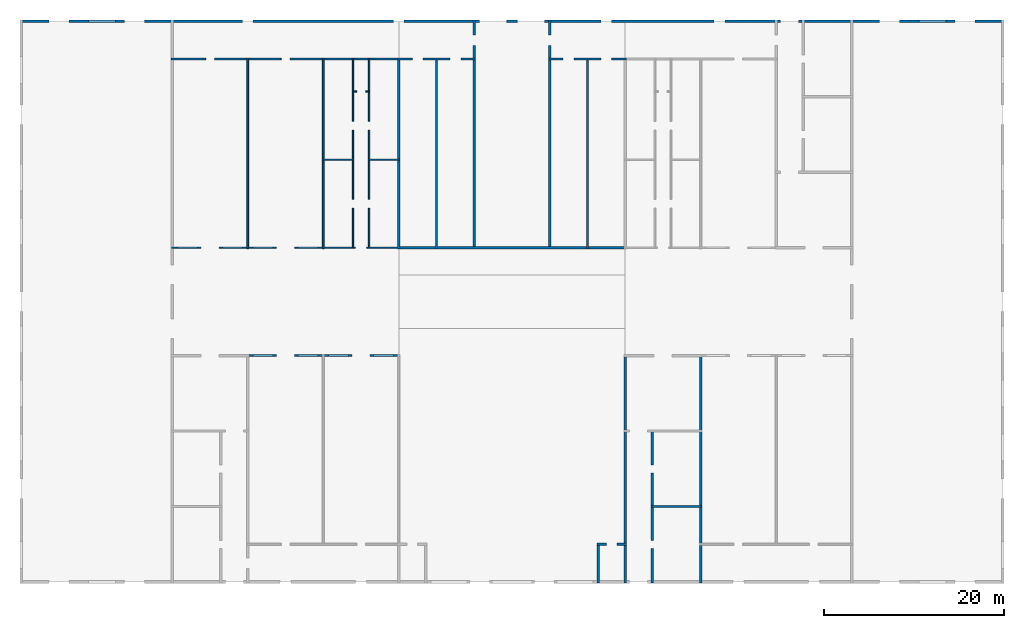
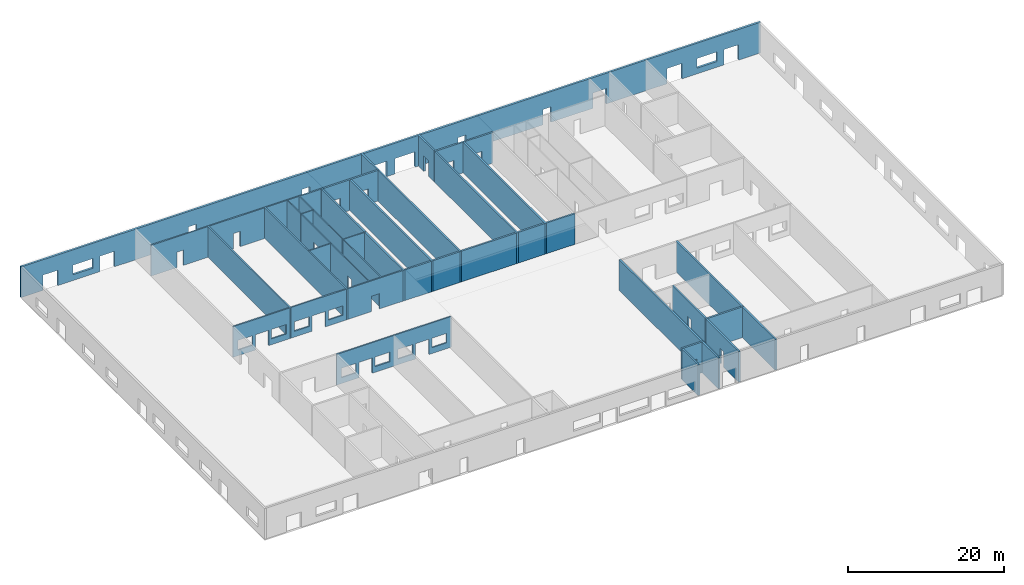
# One storey, part 2 of 3: 25 walls, 53 openings.
"""IFC4 building model written with IfcOpenShell, lengths in millimetres."""

from ifc_helpers import new_model, si_unit, frame, origin_with_axes, place, context, subcontext, project, spatial, indexed_curve, outline, extrude, type_object, element, save


model = new_model("IFC4")

# Units and contexts
model_context = context("Model", 3, precision=1e-05, world=origin_with_axes())
body_context = subcontext(model_context, "Body", "Model", "MODEL_VIEW")
ifc_project = project(units=[si_unit("AREAUNIT", "SQUARE_METRE"), si_unit("VOLUMEUNIT", "CUBIC_METRE"), si_unit("LENGTHUNIT", "METRE", prefix="MILLI")], contexts=[model_context])

# Site, building, storey
site = spatial("IfcSite", under=ifc_project, Name="PIN 00000000 (sample)")
building = spatial("IfcBuilding", under=site, Name="Sample Shopping Mall")
storey = spatial("IfcBuildingStorey", under=building, Name="Ground Floor", Elevation=0.0)

# Wall, openings
wall_type_1 = type_object("IfcWallType", Name="WT-300", PredefinedType="SOLIDWALL")
wall_1_placement = place(None, frame((5250.0, 77849.99999999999, 0.0), z_axis=(0.0, 0.0, 1.0), x_axis=(1.0, 0.0, 0.0)))
wall_1 = element("IfcWall", 1, at=wall_1_placement, inside=storey, type_object=wall_type_1, Name="W29", context=body_context, shape_type="SweptSolid", body=[
    extrude(outline(indexed_curve([(0.0, 0.0), (0.0, 300.0), (109499.99999999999, 300.0), (109499.99999999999, 0.0), (0.0, 0.0)], self_intersect=False)), origin_with_axes(), (0.0, 0.0, 1.0), 4800.0),
])
opening_1_placement = place(wall_1_placement, frame((3250.0, -99.9999999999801, 0.0), z_axis=(0.0, 0.0, 1.0), x_axis=(1.0, 0.0, 0.0)))
element("IfcOpeningElement", 2, at=opening_1_placement, cuts=wall_1, Name="D12-opening", context=body_context, shape_type="SweptSolid", body=[
    extrude(outline(indexed_curve([(0.0, 0.0), (0.0, 500.0), (1100.0, 500.0), (1100.0, 0.0), (0.0, 0.0)], self_intersect=False)), origin_with_axes(), (0.0, 0.0, 1.0), 2400.0),
])
opening_2_placement = place(wall_1_placement, frame((4350.000000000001, -99.9999999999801, 0.0), z_axis=(0.0, 0.0, 1.0), x_axis=(1.0, 0.0, 0.0)))
element("IfcOpeningElement", 3, at=opening_2_placement, cuts=wall_1, Name="-opening", context=body_context, shape_type="SweptSolid", body=[
    extrude(outline(indexed_curve([(0.0, 0.0), (0.0, 500.0), (1100.0, 500.0), (1100.0, 0.0), (0.0, 0.0)], self_intersect=False)), origin_with_axes(), (0.0, 0.0, 1.0), 2400.0),
])
opening_3_placement = place(wall_1_placement, frame((11649.999999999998, -99.9999999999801, 0.0), z_axis=(0.0, 0.0, 1.0), x_axis=(1.0, 0.0, 0.0)))
element("IfcOpeningElement", 4, at=opening_3_placement, cuts=wall_1, Name="D13-opening", context=body_context, shape_type="SweptSolid", body=[
    extrude(outline(indexed_curve([(0.0, 0.0), (0.0, 500.0), (1100.0, 500.0), (1100.0, 0.0), (0.0, 0.0)], self_intersect=False)), origin_with_axes(), (0.0, 0.0, 1.0), 2400.0),
])
opening_4_placement = place(wall_1_placement, frame((12750.0, -99.9999999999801, 0.0), z_axis=(0.0, 0.0, 1.0), x_axis=(1.0, 0.0, 0.0)))
element("IfcOpeningElement", 5, at=opening_4_placement, cuts=wall_1, Name="-opening", context=body_context, shape_type="SweptSolid", body=[
    extrude(outline(indexed_curve([(0.0, 0.0), (0.0, 500.0), (1100.0, 500.0), (1100.0, 0.0), (0.0, 0.0)], self_intersect=False)), origin_with_axes(), (0.0, 0.0, 1.0), 2400.0),
])
opening_5_placement = place(wall_1_placement, frame((95650.0, -99.9999999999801, 0.0), z_axis=(0.0, 0.0, 1.0), x_axis=(1.0, 0.0, 0.0)))
element("IfcOpeningElement", 6, at=opening_5_placement, cuts=wall_1, Name="D21-opening", context=body_context, shape_type="SweptSolid", body=[
    extrude(outline(indexed_curve([(0.0, 0.0), (0.0, 500.0), (1100.0, 500.0), (1100.0, 0.0), (0.0, 0.0)], self_intersect=False)), origin_with_axes(), (0.0, 0.0, 1.0), 2400.0),
])
opening_6_placement = place(wall_1_placement, frame((96750.0, -99.9999999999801, 0.0), z_axis=(0.0, 0.0, 1.0), x_axis=(1.0, 0.0, 0.0)))
element("IfcOpeningElement", 7, at=opening_6_placement, cuts=wall_1, Name="-opening", context=body_context, shape_type="SweptSolid", body=[
    extrude(outline(indexed_curve([(0.0, 0.0), (0.0, 500.0), (1100.0, 500.0), (1100.0, 0.0), (0.0, 0.0)], self_intersect=False)), origin_with_axes(), (0.0, 0.0, 1.0), 2400.0),
])
opening_7_placement = place(wall_1_placement, frame((104050.00000000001, -99.9999999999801, 0.0), z_axis=(0.0, 0.0, 1.0), x_axis=(1.0, 0.0, 0.0)))
element("IfcOpeningElement", 8, at=opening_7_placement, cuts=wall_1, Name="D22-opening", context=body_context, shape_type="SweptSolid", body=[
    extrude(outline(indexed_curve([(0.0, 0.0), (0.0, 500.0), (1100.0, 500.0), (1100.0, 0.0), (0.0, 0.0)], self_intersect=False)), origin_with_axes(), (0.0, 0.0, 1.0), 2400.0),
])
opening_8_placement = place(wall_1_placement, frame((105150.0, -99.9999999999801, 0.0), z_axis=(0.0, 0.0, 1.0), x_axis=(1.0, 0.0, 0.0)))
element("IfcOpeningElement", 9, at=opening_8_placement, cuts=wall_1, Name="-opening", context=body_context, shape_type="SweptSolid", body=[
    extrude(outline(indexed_curve([(0.0, 0.0), (0.0, 500.0), (1100.0, 500.0), (1100.0, 0.0), (0.0, 0.0)], self_intersect=False)), origin_with_axes(), (0.0, 0.0, 1.0), 2400.0),
])
opening_9_placement = place(wall_1_placement, frame((24750.0, -99.9999999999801, 0.0), z_axis=(0.0, 0.0, 1.0), x_axis=(1.0, 0.0, 0.0)))
element("IfcOpeningElement", 10, at=opening_9_placement, cuts=wall_1, Name="D27-opening", context=body_context, shape_type="SweptSolid", body=[
    extrude(outline(indexed_curve([(0.0, 0.0), (0.0, 500.0), (1200.0, 500.0), (1200.0, 0.0), (0.0, 0.0)], self_intersect=False)), origin_with_axes(), (0.0, 0.0, 1.0), 2400.0),
])
opening_10_placement = place(wall_1_placement, frame((41549.99999999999, -99.9999999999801, 0.0), z_axis=(0.0, 0.0, 1.0), x_axis=(1.0, 0.0, 0.0)))
element("IfcOpeningElement", 11, at=opening_10_placement, cuts=wall_1, Name="D28-opening", context=body_context, shape_type="SweptSolid", body=[
    extrude(outline(indexed_curve([(0.0, 0.0), (0.0, 500.0), (1200.0, 500.0), (1200.0, 0.0), (0.0, 0.0)], self_intersect=False)), origin_with_axes(), (0.0, 0.0, 1.0), 2400.0),
])
opening_11_placement = place(wall_1_placement, frame((64650.00000000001, -99.9999999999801, 0.0), z_axis=(0.0, 0.0, 1.0), x_axis=(1.0, 0.0, 0.0)))
element("IfcOpeningElement", 12, at=opening_11_placement, cuts=wall_1, Name="D29-opening", context=body_context, shape_type="SweptSolid", body=[
    extrude(outline(indexed_curve([(0.0, 0.0), (0.0, 500.0), (1200.0, 500.0), (1200.0, 0.0), (0.0, 0.0)], self_intersect=False)), origin_with_axes(), (0.0, 0.0, 1.0), 2400.0),
])
opening_12_placement = place(wall_1_placement, frame((77250.0, -99.9999999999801, 0.0), z_axis=(0.0, 0.0, 1.0), x_axis=(1.0, 0.0, 0.0)))
element("IfcOpeningElement", 13, at=opening_12_placement, cuts=wall_1, Name="D30-opening", context=body_context, shape_type="SweptSolid", body=[
    extrude(outline(indexed_curve([(0.0, 0.0), (0.0, 500.0), (1200.0, 500.0), (1200.0, 0.0), (0.0, 0.0)], self_intersect=False)), origin_with_axes(), (0.0, 0.0, 1.0), 2400.0),
])
opening_13_placement = place(wall_1_placement, frame((51150.0, -99.9999999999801, 0.0), z_axis=(0.0, 0.0, 1.0), x_axis=(1.0, 0.0, 0.0)))
element("IfcOpeningElement", 14, at=opening_13_placement, cuts=wall_1, Name="D62-opening", context=body_context, shape_type="SweptSolid", body=[
    extrude(outline(indexed_curve([(0.0, 0.0), (0.0, 500.0), (1500.0, 500.0), (1500.0, 0.0), (0.0, 0.0)], self_intersect=False)), origin_with_axes(), (0.0, 0.0, 1.0), 2400.0),
])
opening_14_placement = place(wall_1_placement, frame((52650.0, -99.9999999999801, 0.0), z_axis=(0.0, 0.0, 1.0), x_axis=(1.0, 0.0, 0.0)))
element("IfcOpeningElement", 15, at=opening_14_placement, cuts=wall_1, Name="-opening", context=body_context, shape_type="SweptSolid", body=[
    extrude(outline(indexed_curve([(0.0, 0.0), (0.0, 500.0), (1500.0, 500.0), (1500.0, 0.0), (0.0, 0.0)], self_intersect=False)), origin_with_axes(), (0.0, 0.0, 1.0), 2400.0),
])
opening_15_placement = place(wall_1_placement, frame((55350.0, -99.9999999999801, 0.0), z_axis=(0.0, 0.0, 1.0), x_axis=(1.0, 0.0, 0.0)))
element("IfcOpeningElement", 16, at=opening_15_placement, cuts=wall_1, Name="D63-opening", context=body_context, shape_type="SweptSolid", body=[
    extrude(outline(indexed_curve([(0.0, 0.0), (0.0, 500.0), (1500.0, 500.0), (1500.0, 0.0), (0.0, 0.0)], self_intersect=False)), origin_with_axes(), (0.0, 0.0, 1.0), 2400.0),
])
opening_16_placement = place(wall_1_placement, frame((56850.0, -99.9999999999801, 0.0), z_axis=(0.0, 0.0, 1.0), x_axis=(1.0, 0.0, 0.0)))
element("IfcOpeningElement", 17, at=opening_16_placement, cuts=wall_1, Name="-opening", context=body_context, shape_type="SweptSolid", body=[
    extrude(outline(indexed_curve([(0.0, 0.0), (0.0, 500.0), (1500.0, 500.0), (1500.0, 0.0), (0.0, 0.0)], self_intersect=False)), origin_with_axes(), (0.0, 0.0, 1.0), 2400.0),
])
opening_17_placement = place(wall_1_placement, frame((84650.0, -99.9999999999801, 0.0), z_axis=(0.0, 0.0, 1.0), x_axis=(1.0, 0.0, 0.0)))
element("IfcOpeningElement", 18, at=opening_17_placement, cuts=wall_1, Name="D78-opening", context=body_context, shape_type="SweptSolid", body=[
    extrude(outline(indexed_curve([(0.0, 0.0), (0.0, 500.0), (1000.0, 500.0), (1000.0, 0.0), (0.0, 0.0)], self_intersect=False)), origin_with_axes(), (0.0, 0.0, 1.0), 2400.0),
])
opening_18_placement = place(wall_1_placement, frame((85650.0, -99.9999999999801, 0.0), z_axis=(0.0, 0.0, 1.0), x_axis=(1.0, 0.0, 0.0)))
element("IfcOpeningElement", 19, at=opening_18_placement, cuts=wall_1, Name="-opening", context=body_context, shape_type="SweptSolid", body=[
    extrude(outline(indexed_curve([(0.0, 0.0), (0.0, 500.0), (1000.0, 500.0), (1000.0, 0.0), (0.0, 0.0)], self_intersect=False)), origin_with_axes(), (0.0, 0.0, 1.0), 2400.0),
])
opening_19_placement = place(wall_1_placement, frame((7650.0, -99.9999999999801, 900.0), z_axis=(0.0, 0.0, 1.0), x_axis=(1.0, 0.0, 0.0)))
element("IfcOpeningElement", 20, at=opening_19_placement, cuts=wall_1, Name="-opening", context=body_context, shape_type="SweptSolid", body=[
    extrude(outline(indexed_curve([(0.0, 0.0), (0.0, 500.0), (3000.0, 500.0), (3000.0, 0.0), (0.0, 0.0)], self_intersect=False)), origin_with_axes(), (0.0, 0.0, 1.0), 1500.0),
])
opening_20_placement = place(wall_1_placement, frame((100050.00000000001, -99.9999999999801, 900.0), z_axis=(0.0, 0.0, 1.0), x_axis=(1.0, 0.0, 0.0)))
element("IfcOpeningElement", 21, at=opening_20_placement, cuts=wall_1, Name="-opening", context=body_context, shape_type="SweptSolid", body=[
    extrude(outline(indexed_curve([(0.0, 0.0), (0.0, 500.0), (3000.0, 500.0), (3000.0, 0.0), (0.0, 0.0)], self_intersect=False)), origin_with_axes(), (0.0, 0.0, 1.0), 1500.0),
])

wall_type_2 = type_object("IfcWallType", Name="WT-200", PredefinedType="SOLIDWALL")
wall_2_placement = place(None, frame((30500.0, 40699.99999999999, 0.0), z_axis=(0.0, 0.0, 1.0), x_axis=(1.0, 0.0, 0.0)))
wall_2 = element("IfcWall", 22, at=wall_2_placement, inside=storey, type_object=wall_type_2, Name="W10", context=body_context, shape_type="SweptSolid", body=[
    extrude(outline(indexed_curve([(0.0, 0.0), (0.0, 200.0), (16999.999999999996, 200.0), (16999.999999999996, 0.0), (0.0, 0.0)], self_intersect=False)), origin_with_axes(), (0.0, 0.0, 1.0), 4800.0),
])
opening_21_placement = place(wall_2_placement, frame((3299.9999999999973, -100.00000000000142, 0.0), z_axis=(0.0, 0.0, 1.0), x_axis=(1.0, 0.0, 0.0)))
element("IfcOpeningElement", 23, at=opening_21_placement, cuts=wall_2, Name="D37-opening", context=body_context, shape_type="SweptSolid", body=[
    extrude(outline(indexed_curve([(0.0, 0.0), (0.0, 400.0), (1000.0, 400.0), (1000.0, 0.0), (0.0, 0.0)], self_intersect=False)), origin_with_axes(), (0.0, 0.0, 1.0), 2400.0),
])
opening_22_placement = place(wall_2_placement, frame((4300.000000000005, -100.00000000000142, 0.0), z_axis=(0.0, 0.0, 1.0), x_axis=(1.0, 0.0, 0.0)))
element("IfcOpeningElement", 24, at=opening_22_placement, cuts=wall_2, Name="-opening", context=body_context, shape_type="SweptSolid", body=[
    extrude(outline(indexed_curve([(0.0, 0.0), (0.0, 400.0), (1000.0, 400.0), (1000.0, 0.0), (0.0, 0.0)], self_intersect=False)), origin_with_axes(), (0.0, 0.0, 1.0), 2400.0),
])
opening_23_placement = place(wall_2_placement, frame((11700.000000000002, -100.00000000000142, 0.0), z_axis=(0.0, 0.0, 1.0), x_axis=(1.0, 0.0, 0.0)))
element("IfcOpeningElement", 25, at=opening_23_placement, cuts=wall_2, Name="D39-opening", context=body_context, shape_type="SweptSolid", body=[
    extrude(outline(indexed_curve([(0.0, 0.0), (0.0, 400.0), (1000.0, 400.0), (1000.0, 0.0), (0.0, 0.0)], self_intersect=False)), origin_with_axes(), (0.0, 0.0, 1.0), 2400.0),
])
opening_24_placement = place(wall_2_placement, frame((12700.000000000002, -100.00000000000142, 0.0), z_axis=(0.0, 0.0, 1.0), x_axis=(1.0, 0.0, 0.0)))
element("IfcOpeningElement", 26, at=opening_24_placement, cuts=wall_2, Name="-opening", context=body_context, shape_type="SweptSolid", body=[
    extrude(outline(indexed_curve([(0.0, 0.0), (0.0, 400.0), (1000.0, 400.0), (1000.0, 0.0), (0.0, 0.0)], self_intersect=False)), origin_with_axes(), (0.0, 0.0, 1.0), 2400.0),
])
opening_25_placement = place(wall_2_placement, frame((700.0000000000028, -100.00000000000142, 900.0), z_axis=(0.0, 0.0, 1.0), x_axis=(1.0, 0.0, 0.0)))
element("IfcOpeningElement", 27, at=opening_25_placement, cuts=wall_2, Name="-opening", context=body_context, shape_type="SweptSolid", body=[
    extrude(outline(indexed_curve([(0.0, 0.0), (0.0, 400.0), (2200.0, 400.0), (2200.0, 0.0), (0.0, 0.0)], self_intersect=False)), origin_with_axes(), (0.0, 0.0, 1.0), 1500.0),
])
opening_26_placement = place(wall_2_placement, frame((5700.000000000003, -100.00000000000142, 900.0), z_axis=(0.0, 0.0, 1.0), x_axis=(1.0, 0.0, 0.0)))
element("IfcOpeningElement", 28, at=opening_26_placement, cuts=wall_2, Name="-opening", context=body_context, shape_type="SweptSolid", body=[
    extrude(outline(indexed_curve([(0.0, 0.0), (0.0, 400.0), (2200.0, 400.0), (2200.0, 0.0), (0.0, 0.0)], self_intersect=False)), origin_with_axes(), (0.0, 0.0, 1.0), 1500.0),
])
opening_27_placement = place(wall_2_placement, frame((9100.000000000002, -100.00000000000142, 900.0), z_axis=(0.0, 0.0, 1.0), x_axis=(1.0, 0.0, 0.0)))
element("IfcOpeningElement", 29, at=opening_27_placement, cuts=wall_2, Name="-opening", context=body_context, shape_type="SweptSolid", body=[
    extrude(outline(indexed_curve([(0.0, 0.0), (0.0, 400.0), (2200.0, 400.0), (2200.0, 0.0), (0.0, 0.0)], self_intersect=False)), origin_with_axes(), (0.0, 0.0, 1.0), 1500.0),
])
opening_28_placement = place(wall_2_placement, frame((14100.000000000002, -100.00000000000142, 900.0), z_axis=(0.0, 0.0, 1.0), x_axis=(1.0, 0.0, 0.0)))
element("IfcOpeningElement", 30, at=opening_28_placement, cuts=wall_2, Name="-opening", context=body_context, shape_type="SweptSolid", body=[
    extrude(outline(indexed_curve([(0.0, 0.0), (0.0, 400.0), (2200.0, 400.0), (2200.0, 0.0), (0.0, 0.0)], self_intersect=False)), origin_with_axes(), (0.0, 0.0, 1.0), 1500.0),
])

wall_3_placement = place(None, frame((22099.999999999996, 52699.99999999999, 0.0), z_axis=(0.0, 0.0, 1.0), x_axis=(1.0, 0.0, 0.0)))
wall_3 = element("IfcWall", 31, at=wall_3_placement, inside=storey, type_object=wall_type_2, Name="W13", context=body_context, shape_type="SweptSolid", body=[
    extrude(outline(indexed_curve([(0.0, 0.0), (0.0, 200.0), (25399.999999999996, 200.0), (25399.999999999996, 0.0), (0.0, 0.0)], self_intersect=False)), origin_with_axes(), (0.0, 0.0, 1.0), 4800.0),
])
opening_29_placement = place(wall_3_placement, frame((3300.0000000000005, -100.00000000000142, 0.0), z_axis=(0.0, 0.0, 1.0), x_axis=(1.0, 0.0, 0.0)))
element("IfcOpeningElement", 32, at=opening_29_placement, cuts=wall_3, Name="D50-opening", context=body_context, shape_type="SweptSolid", body=[
    extrude(outline(indexed_curve([(0.0, 0.0), (0.0, 400.0), (1000.0, 400.0), (1000.0, 0.0), (0.0, 0.0)], self_intersect=False)), origin_with_axes(), (0.0, 0.0, 1.0), 2400.0),
])
opening_30_placement = place(wall_3_placement, frame((4300.000000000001, -100.00000000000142, 0.0), z_axis=(0.0, 0.0, 1.0), x_axis=(1.0, 0.0, 0.0)))
element("IfcOpeningElement", 33, at=opening_30_placement, cuts=wall_3, Name="-opening", context=body_context, shape_type="SweptSolid", body=[
    extrude(outline(indexed_curve([(0.0, 0.0), (0.0, 400.0), (1000.0, 400.0), (1000.0, 0.0), (0.0, 0.0)], self_intersect=False)), origin_with_axes(), (0.0, 0.0, 1.0), 2400.0),
])
opening_31_placement = place(wall_3_placement, frame((11699.999999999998, -100.00000000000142, 0.0), z_axis=(0.0, 0.0, 1.0), x_axis=(1.0, 0.0, 0.0)))
element("IfcOpeningElement", 34, at=opening_31_placement, cuts=wall_3, Name="D52-opening", context=body_context, shape_type="SweptSolid", body=[
    extrude(outline(indexed_curve([(0.0, 0.0), (0.0, 400.0), (1000.0, 400.0), (1000.0, 0.0), (0.0, 0.0)], self_intersect=False)), origin_with_axes(), (0.0, 0.0, 1.0), 2400.0),
])
opening_32_placement = place(wall_3_placement, frame((12700.000000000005, -100.00000000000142, 0.0), z_axis=(0.0, 0.0, 1.0), x_axis=(1.0, 0.0, 0.0)))
element("IfcOpeningElement", 35, at=opening_32_placement, cuts=wall_3, Name="-opening", context=body_context, shape_type="SweptSolid", body=[
    extrude(outline(indexed_curve([(0.0, 0.0), (0.0, 400.0), (1000.0, 400.0), (1000.0, 0.0), (0.0, 0.0)], self_intersect=False)), origin_with_axes(), (0.0, 0.0, 1.0), 2400.0),
])
opening_33_placement = place(wall_3_placement, frame((20499.999999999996, -100.00000000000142, 0.0), z_axis=(0.0, 0.0, 1.0), x_axis=(1.0, 0.0, 0.0)))
element("IfcOpeningElement", 36, at=opening_33_placement, cuts=wall_3, Name="D54-opening", context=body_context, shape_type="SweptSolid", body=[
    extrude(outline(indexed_curve([(0.0, 0.0), (0.0, 400.0), (1200.0, 400.0), (1200.0, 0.0), (0.0, 0.0)], self_intersect=False)), origin_with_axes(), (0.0, 0.0, 1.0), 2400.0),
])
opening_34_placement = place(wall_3_placement, frame((700.0000000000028, -100.00000000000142, 900.0), z_axis=(0.0, 0.0, 1.0), x_axis=(1.0, 0.0, 0.0)))
element("IfcOpeningElement", 37, at=opening_34_placement, cuts=wall_3, Name="-opening", context=body_context, shape_type="SweptSolid", body=[
    extrude(outline(indexed_curve([(0.0, 0.0), (0.0, 400.0), (2200.0, 400.0), (2200.0, 0.0), (0.0, 0.0)], self_intersect=False)), origin_with_axes(), (0.0, 0.0, 1.0), 1500.0),
])
opening_35_placement = place(wall_3_placement, frame((5699.999999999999, -100.00000000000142, 900.0), z_axis=(0.0, 0.0, 1.0), x_axis=(1.0, 0.0, 0.0)))
element("IfcOpeningElement", 38, at=opening_35_placement, cuts=wall_3, Name="-opening", context=body_context, shape_type="SweptSolid", body=[
    extrude(outline(indexed_curve([(0.0, 0.0), (0.0, 400.0), (2200.0, 400.0), (2200.0, 0.0), (0.0, 0.0)], self_intersect=False)), origin_with_axes(), (0.0, 0.0, 1.0), 1500.0),
])
opening_36_placement = place(wall_3_placement, frame((9100.000000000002, -100.00000000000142, 900.0), z_axis=(0.0, 0.0, 1.0), x_axis=(1.0, 0.0, 0.0)))
element("IfcOpeningElement", 39, at=opening_36_placement, cuts=wall_3, Name="-opening", context=body_context, shape_type="SweptSolid", body=[
    extrude(outline(indexed_curve([(0.0, 0.0), (0.0, 400.0), (2200.0, 400.0), (2200.0, 0.0), (0.0, 0.0)], self_intersect=False)), origin_with_axes(), (0.0, 0.0, 1.0), 1500.0),
])
opening_37_placement = place(wall_3_placement, frame((14100.000000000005, -100.00000000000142, 900.0), z_axis=(0.0, 0.0, 1.0), x_axis=(1.0, 0.0, 0.0)))
element("IfcOpeningElement", 40, at=opening_37_placement, cuts=wall_3, Name="-opening", context=body_context, shape_type="SweptSolid", body=[
    extrude(outline(indexed_curve([(0.0, 0.0), (0.0, 400.0), (2200.0, 400.0), (2200.0, 0.0), (0.0, 0.0)], self_intersect=False)), origin_with_axes(), (0.0, 0.0, 1.0), 1500.0),
])

wall_4_placement = place(None, frame((22099.999999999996, 73700.0, 0.0), z_axis=(0.0, 0.0, 1.0), x_axis=(1.0, 0.0, 0.0)))
wall_4 = element("IfcWall", 41, at=wall_4_placement, inside=storey, type_object=wall_type_2, Name="W25", context=body_context, shape_type="SweptSolid", body=[
    extrude(outline(indexed_curve([(0.0, 0.0), (0.0, 200.0), (25399.999999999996, 200.0), (25399.999999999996, 0.0), (0.0, 0.0)], self_intersect=False)), origin_with_axes(), (0.0, 0.0, 1.0), 4800.0),
])
opening_38_placement = place(wall_4_placement, frame((3800.0000000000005, -99.99999999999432, 0.0), z_axis=(0.0, 0.0, 1.0), x_axis=(1.0, 0.0, 0.0)))
element("IfcOpeningElement", 42, at=opening_38_placement, cuts=wall_4, Name="-opening", context=body_context, shape_type="SweptSolid", body=[
    extrude(outline(indexed_curve([(0.0, 0.0), (0.0, 400.0), (1000.0, 400.0), (1000.0, 0.0), (0.0, 0.0)], self_intersect=False)), origin_with_axes(), (0.0, 0.0, 1.0), 2400.0),
])
opening_39_placement = place(wall_4_placement, frame((12200.000000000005, -99.99999999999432, 0.0), z_axis=(0.0, 0.0, 1.0), x_axis=(1.0, 0.0, 0.0)))
element("IfcOpeningElement", 43, at=opening_39_placement, cuts=wall_4, Name="-opening", context=body_context, shape_type="SweptSolid", body=[
    extrude(outline(indexed_curve([(0.0, 0.0), (0.0, 400.0), (1000.0, 400.0), (1000.0, 0.0), (0.0, 0.0)], self_intersect=False)), origin_with_axes(), (0.0, 0.0, 1.0), 2400.0),
])

# Walls
for number, where, z_axis, x_axis, name in (
    (44, (30700.000000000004, 52699.99999999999, 0.0), (0.0, 0.0, 1.0), (6.123233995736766e-17, 1.0, 0.0), "W34"),
    (45, (39100.0, 52699.99999999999, 0.0), (0.0, 0.0, 1.0), (6.123233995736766e-17, 1.0, 0.0), "W36"),
):
    element("IfcWall", number, at=place(None, frame(where, z_axis=z_axis, x_axis=x_axis)), inside=storey, type_object=wall_type_2, Name=name, context=body_context, shape_type="SweptSolid", body=[
        extrude(outline(indexed_curve([(0.0, 0.0), (0.0, 200.0), (21200.0, 200.0), (21200.0, 0.0), (0.0, 0.0)], self_intersect=False)), origin_with_axes(), (0.0, 0.0, 1.0), 4800.0),
    ])

# Wall, opening
wall_type_3 = type_object("IfcWallType", Name="WT-250", PredefinedType="SOLIDWALL")
wall_5_placement = place(None, frame((69475.0, 19675.0, 0.0), z_axis=(0.0, 0.0, 1.0), x_axis=(1.0, 0.0, 0.0)))
wall_5 = element("IfcWall", 46, at=wall_5_placement, inside=storey, type_object=wall_type_3, Name="W3", context=body_context, shape_type="SweptSolid", body=[
    extrude(outline(indexed_curve([(0.0, 0.0), (0.0, 250.0), (3250.0, 250.0), (3250.0, 0.0), (0.0, 0.0)], self_intersect=False)), origin_with_axes(), (0.0, 0.0, 1.0), 4800.0),
])
opening_40_placement = place(wall_5_placement, frame((1024.9999999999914, -100.00000000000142, 0.0), z_axis=(0.0, 0.0, 1.0), x_axis=(1.0, 0.0, 0.0)))
element("IfcOpeningElement", 47, at=opening_40_placement, cuts=wall_5, Name="D02-opening", context=body_context, shape_type="SweptSolid", body=[
    extrude(outline(indexed_curve([(0.0, 0.0), (0.0, 450.0), (1200.0, 450.0), (1200.0, 0.0), (0.0, 0.0)], self_intersect=False)), origin_with_axes(), (0.0, 0.0, 1.0), 2400.0),
])

# Walls
wall_6_placement = place(None, frame((75475.0, 23875.0, 0.0), z_axis=(0.0, 0.0, 1.0), x_axis=(1.0, 0.0, 0.0)))
element("IfcWall", 48, at=wall_6_placement, inside=storey, type_object=wall_type_3, Name="W6", context=body_context, shape_type="SweptSolid", body=[
    extrude(outline(indexed_curve([(0.0, 0.0), (0.0, 250.0), (5650.0000000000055, 250.0), (5650.0000000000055, 0.0), (0.0, 0.0)], self_intersect=False)), origin_with_axes(), (0.0, 0.0, 1.0), 4800.0),
])
wall_7_placement = place(None, frame((47275.0, 52674.99999999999, 0.0), z_axis=(0.0, 0.0, 1.0), x_axis=(1.0, 0.0, 0.0)))
element("IfcWall", 49, at=wall_7_placement, inside=storey, type_object=wall_type_3, Name="W14", context=body_context, shape_type="SweptSolid", body=[
    extrude(outline(indexed_curve([(0.0, 0.0), (0.0, 250.0), (25449.999999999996, 250.0), (25449.999999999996, 0.0), (0.0, 0.0)], self_intersect=False)), origin_with_axes(), (0.0, 0.0, 1.0), 4800.0),
])

# Wall, openings
wall_8_placement = place(None, frame((47275.0, 73675.0, 0.0), z_axis=(0.0, 0.0, 1.0), x_axis=(1.0, 0.0, 0.0)))
wall_8 = element("IfcWall", 50, at=wall_8_placement, inside=storey, type_object=wall_type_3, Name="W26", context=body_context, shape_type="SweptSolid", body=[
    extrude(outline(indexed_curve([(0.0, 0.0), (0.0, 250.0), (8649.999999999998, 250.0), (8649.999999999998, 0.0), (0.0, 0.0)], self_intersect=False)), origin_with_axes(), (0.0, 0.0, 1.0), 4800.0),
])
opening_41_placement = place(wall_8_placement, frame((1625.0, -99.99999999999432, 0.0), z_axis=(0.0, 0.0, 1.0), x_axis=(1.0, 0.0, 0.0)))
element("IfcOpeningElement", 51, at=opening_41_placement, cuts=wall_8, Name="-opening", context=body_context, shape_type="SweptSolid", body=[
    extrude(outline(indexed_curve([(0.0, 0.0), (0.0, 450.0), (1200.0, 450.0), (1200.0, 0.0), (0.0, 0.0)], self_intersect=False)), origin_with_axes(), (0.0, 0.0, 1.0), 2400.0),
])
opening_42_placement = place(wall_8_placement, frame((5825.000000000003, -99.99999999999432, 0.0), z_axis=(0.0, 0.0, 1.0), x_axis=(1.0, 0.0, 0.0)))
element("IfcOpeningElement", 52, at=opening_42_placement, cuts=wall_8, Name="-opening", context=body_context, shape_type="SweptSolid", body=[
    extrude(outline(indexed_curve([(0.0, 0.0), (0.0, 450.0), (1200.0, 450.0), (1200.0, 0.0), (0.0, 0.0)], self_intersect=False)), origin_with_axes(), (0.0, 0.0, 1.0), 2400.0),
])

wall_9_placement = place(None, frame((64075.0, 73675.0, 0.0), z_axis=(0.0, 0.0, 1.0), x_axis=(1.0, 0.0, 0.0)))
wall_9 = element("IfcWall", 53, at=wall_9_placement, inside=storey, type_object=wall_type_3, Name="W27", context=body_context, shape_type="SweptSolid", body=[
    extrude(outline(indexed_curve([(0.0, 0.0), (0.0, 250.0), (8649.99999999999, 250.0), (8649.99999999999, 0.0), (0.0, 0.0)], self_intersect=False)), origin_with_axes(), (0.0, 0.0, 1.0), 4800.0),
])
opening_43_placement = place(wall_9_placement, frame((1625.0, -99.99999999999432, 0.0), z_axis=(0.0, 0.0, 1.0), x_axis=(1.0, 0.0, 0.0)))
element("IfcOpeningElement", 54, at=opening_43_placement, cuts=wall_9, Name="-opening", context=body_context, shape_type="SweptSolid", body=[
    extrude(outline(indexed_curve([(0.0, 0.0), (0.0, 450.0), (1200.0, 450.0), (1200.0, 0.0), (0.0, 0.0)], self_intersect=False)), origin_with_axes(), (0.0, 0.0, 1.0), 2400.0),
])
opening_44_placement = place(wall_9_placement, frame((5825.000000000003, -99.99999999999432, 0.0), z_axis=(0.0, 0.0, 1.0), x_axis=(1.0, 0.0, 0.0)))
element("IfcOpeningElement", 55, at=opening_44_placement, cuts=wall_9, Name="-opening", context=body_context, shape_type="SweptSolid", body=[
    extrude(outline(indexed_curve([(0.0, 0.0), (0.0, 450.0), (1200.0, 450.0), (1200.0, 0.0), (0.0, 0.0)], self_intersect=False)), origin_with_axes(), (0.0, 0.0, 1.0), 2400.0),
])

# Walls
for number, where, z_axis, x_axis, name in (
    (56, (47525.0, 52674.99999999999, 0.0), (0.0, 0.0, 1.0), (6.123233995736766e-17, 1.0, 0.0), "W41"),
    (57, (51725.0, 52674.99999999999, 0.0), (0.0, 0.0, 1.0), (6.123233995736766e-17, 1.0, 0.0), "W43"),
):
    element("IfcWall", number, at=place(None, frame(where, z_axis=z_axis, x_axis=x_axis)), inside=storey, type_object=wall_type_3, Name=name, context=body_context, shape_type="SweptSolid", body=[
        extrude(outline(indexed_curve([(0.0, 0.0), (0.0, 250.0), (21250.0, 250.0), (21250.0, 0.0), (0.0, 0.0)], self_intersect=False)), origin_with_axes(), (0.0, 0.0, 1.0), 4800.0),
    ])

# Wall, opening
wall_10_placement = place(None, frame((55924.99999999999, 52674.99999999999, 0.0), z_axis=(0.0, 0.0, 1.0), x_axis=(6.123233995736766e-17, 1.0, 0.0)))
wall_10 = element("IfcWall", 58, at=wall_10_placement, inside=storey, type_object=wall_type_3, Name="W44", context=body_context, shape_type="SweptSolid", body=[
    extrude(outline(indexed_curve([(0.0, 0.0), (0.0, 250.0), (25450.000000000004, 250.0), (25450.000000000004, 0.0), (0.0, 0.0)], self_intersect=False)), origin_with_axes(), (0.0, 0.0, 1.0), 4800.0),
])
opening_45_placement = place(wall_10_placement, frame((22625.0, -99.99999999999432, 0.0), z_axis=(0.0, 0.0, 1.0), x_axis=(1.0, 0.0, 0.0)))
element("IfcOpeningElement", 59, at=opening_45_placement, cuts=wall_10, Name="-opening", context=body_context, shape_type="SweptSolid", body=[
    extrude(outline(indexed_curve([(0.0, 0.0), (0.0, 450.0), (1200.0, 450.0), (1200.0, 0.0), (0.0, 0.0)], self_intersect=False)), origin_with_axes(), (0.0, 0.0, 1.0), 2400.0),
])

wall_11_placement = place(None, frame((64325.0, 52674.99999999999, 0.0), z_axis=(0.0, 0.0, 1.0), x_axis=(6.123233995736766e-17, 1.0, 0.0)))
wall_11 = element("IfcWall", 60, at=wall_11_placement, inside=storey, type_object=wall_type_3, Name="W45", context=body_context, shape_type="SweptSolid", body=[
    extrude(outline(indexed_curve([(0.0, 0.0), (0.0, 250.0), (25450.000000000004, 250.0), (25450.000000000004, 0.0), (0.0, 0.0)], self_intersect=False)), origin_with_axes(), (0.0, 0.0, 1.0), 4800.0),
])
opening_46_placement = place(wall_11_placement, frame((22624.999999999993, -99.99999999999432, 0.0), z_axis=(0.0, 0.0, 1.0), x_axis=(1.0, 0.0, 0.0)))
element("IfcOpeningElement", 61, at=opening_46_placement, cuts=wall_11, Name="-opening", context=body_context, shape_type="SweptSolid", body=[
    extrude(outline(indexed_curve([(0.0, 0.0), (0.0, 450.0), (1200.0, 450.0), (1200.0, 0.0), (0.0, 0.0)], self_intersect=False)), origin_with_axes(), (0.0, 0.0, 1.0), 2400.0),
])

# Walls
wall_12_placement = place(None, frame((68525.0, 52674.99999999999, 0.0), z_axis=(0.0, 0.0, 1.0), x_axis=(6.123233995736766e-17, 1.0, 0.0)))
element("IfcWall", 62, at=wall_12_placement, inside=storey, type_object=wall_type_3, Name="W46", context=body_context, shape_type="SweptSolid", body=[
    extrude(outline(indexed_curve([(0.0, 0.0), (0.0, 250.0), (21250.0, 250.0), (21250.0, 0.0), (0.0, 0.0)], self_intersect=False)), origin_with_axes(), (0.0, 0.0, 1.0), 4800.0),
])
wall_13_placement = place(None, frame((69725.0, 15475.0, 0.0), z_axis=(0.0, 0.0, 1.0), x_axis=(6.123233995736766e-17, 1.0, 0.0)))
element("IfcWall", 63, at=wall_13_placement, inside=storey, type_object=wall_type_3, Name="W47", context=body_context, shape_type="SweptSolid", body=[
    extrude(outline(indexed_curve([(0.0, 0.0), (0.0, 250.0), (4450.000000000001, 250.0), (4450.000000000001, 0.0), (0.0, 0.0)], self_intersect=False)), origin_with_axes(), (0.0, 0.0, 1.0), 4800.0),
])
wall_14_placement = place(None, frame((72725.0, 15475.0, 0.0), z_axis=(0.0, 0.0, 1.0), x_axis=(6.123233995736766e-17, 1.0, 0.0)))
element("IfcWall", 64, at=wall_14_placement, inside=storey, type_object=wall_type_3, Name="W48", context=body_context, shape_type="SweptSolid", body=[
    extrude(outline(indexed_curve([(0.0, 0.0), (0.0, 250.0), (25449.999999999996, 250.0), (25449.999999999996, 0.0), (0.0, 0.0)], self_intersect=False)), origin_with_axes(), (0.0, 0.0, 1.0), 4800.0),
])

# Wall, openings
wall_15_placement = place(None, frame((75725.0, 15475.0, 0.0), z_axis=(0.0, 0.0, 1.0), x_axis=(6.123233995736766e-17, 1.0, 0.0)))
wall_15 = element("IfcWall", 65, at=wall_15_placement, inside=storey, type_object=wall_type_3, Name="W50", context=body_context, shape_type="SweptSolid", body=[
    extrude(outline(indexed_curve([(0.0, 0.0), (0.0, 250.0), (17049.999999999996, 250.0), (17049.999999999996, 0.0), (0.0, 0.0)], self_intersect=False)), origin_with_axes(), (0.0, 0.0, 1.0), 4800.0),
])
opening_47_placement = place(wall_15_placement, frame((12274.999999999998, -99.9999999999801, 0.0), z_axis=(0.0, 0.0, 1.0), x_axis=(1.0, 0.0, 0.0)))
element("IfcOpeningElement", 66, at=opening_47_placement, cuts=wall_15, Name="-opening", context=body_context, shape_type="SweptSolid", body=[
    extrude(outline(indexed_curve([(0.0, 0.0), (0.0, 450.0), (900.0, 450.0), (900.0, 0.0), (0.0, 0.0)], self_intersect=False)), origin_with_axes(), (0.0, 0.0, 1.0), 2400.0),
])
opening_48_placement = place(wall_15_placement, frame((3875.0, -99.9999999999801, 0.0), z_axis=(0.0, 0.0, 1.0), x_axis=(1.0, 0.0, 0.0)))
element("IfcOpeningElement", 67, at=opening_48_placement, cuts=wall_15, Name="-opening", context=body_context, shape_type="SweptSolid", body=[
    extrude(outline(indexed_curve([(0.0, 0.0), (0.0, 450.0), (900.0, 450.0), (900.0, 0.0), (0.0, 0.0)], self_intersect=False)), origin_with_axes(), (0.0, 0.0, 1.0), 2400.0),
])

# Walls
wall_16_placement = place(None, frame((81125.0, 15475.0, 0.0), z_axis=(0.0, 0.0, 1.0), x_axis=(6.123233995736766e-17, 1.0, 0.0)))
element("IfcWall", 68, at=wall_16_placement, inside=storey, type_object=wall_type_3, Name="W53", context=body_context, shape_type="SweptSolid", body=[
    extrude(outline(indexed_curve([(0.0, 0.0), (0.0, 250.0), (25449.999999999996, 250.0), (25449.999999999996, 0.0), (0.0, 0.0)], self_intersect=False)), origin_with_axes(), (0.0, 0.0, 1.0), 4800.0),
])
wall_type_4 = type_object("IfcWallType", Name="WT-150", PredefinedType="SOLIDWALL")
for number, where, z_axis, x_axis, name in (
    (69, (38924.99999999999, 62525.0, 0.0), (0.0, 0.0, 1.0), (1.0, 0.0, 0.0), "W18"),
    (70, (44025.0, 62525.0, 0.0), (0.0, 0.0, 1.0), (1.0, 0.0, 0.0), "W19"),
):
    element("IfcWall", number, at=place(None, frame(where, z_axis=z_axis, x_axis=x_axis)), inside=storey, type_object=wall_type_4, Name=name, context=body_context, shape_type="SweptSolid", body=[
        extrude(outline(indexed_curve([(0.0, 0.0), (0.0, 150.0), (3449.999999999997, 150.0), (3449.999999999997, 0.0), (0.0, 0.0)], self_intersect=False)), origin_with_axes(), (0.0, 0.0, 1.0), 4800.0),
    ])

# Wall, opening
wall_17_placement = place(None, frame((42224.99999999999, 70125.0, 0.0), z_axis=(0.0, 0.0, 1.0), x_axis=(1.0, 0.0, 0.0)))
wall_17 = element("IfcWall", 71, at=wall_17_placement, inside=storey, type_object=wall_type_4, Name="W23", context=body_context, shape_type="SweptSolid", body=[
    extrude(outline(indexed_curve([(0.0, 0.0), (0.0, 150.0), (1950.000000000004, 150.0), (1950.000000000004, 0.0), (0.0, 0.0)], self_intersect=False)), origin_with_axes(), (0.0, 0.0, 1.0), 4800.0),
])
opening_49_placement = place(wall_17_placement, frame((475.0000000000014, -99.99999999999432, 0.0), z_axis=(0.0, 0.0, 1.0), x_axis=(1.0, 0.0, 0.0)))
element("IfcOpeningElement", 72, at=opening_49_placement, cuts=wall_17, Name="-opening", context=body_context, shape_type="SweptSolid", body=[
    extrude(outline(indexed_curve([(0.0, 0.0), (0.0, 349.99999999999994), (1000.0, 349.99999999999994), (1000.0, 0.0), (0.0, 0.0)], self_intersect=False)), origin_with_axes(), (0.0, 0.0, 1.0), 2400.0),
])

# Wall, openings
wall_18_placement = place(None, frame((42375.0, 52724.99999999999, 0.0), z_axis=(0.0, 0.0, 1.0), x_axis=(6.123233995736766e-17, 1.0, 0.0)))
wall_18 = element("IfcWall", 73, at=wall_18_placement, inside=storey, type_object=wall_type_4, Name="W37", context=body_context, shape_type="SweptSolid", body=[
    extrude(outline(indexed_curve([(0.0, 0.0), (0.0, 150.0), (21149.999999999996, 150.0), (21149.999999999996, 0.0), (0.0, 0.0)], self_intersect=False)), origin_with_axes(), (0.0, 0.0, 1.0), 4800.0),
])
opening_50_placement = place(wall_18_placement, frame((4475.000000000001, -99.99999999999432, 0.0), z_axis=(0.0, 0.0, 1.0), x_axis=(1.0, 0.0, 0.0)))
element("IfcOpeningElement", 74, at=opening_50_placement, cuts=wall_18, Name="-opening", context=body_context, shape_type="SweptSolid", body=[
    extrude(outline(indexed_curve([(0.0, 0.0), (0.0, 349.99999999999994), (1000.0, 349.99999999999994), (1000.0, 0.0), (0.0, 0.0)], self_intersect=False)), origin_with_axes(), (0.0, 0.0, 1.0), 2400.0),
])
opening_51_placement = place(wall_18_placement, frame((13174.999999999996, -99.99999999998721, 0.0), z_axis=(0.0, 0.0, 1.0), x_axis=(1.0, 0.0, 0.0)))
element("IfcOpeningElement", 75, at=opening_51_placement, cuts=wall_18, Name="-opening", context=body_context, shape_type="SweptSolid", body=[
    extrude(outline(indexed_curve([(0.0, 0.0), (0.0, 349.99999999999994), (1000.0, 349.99999999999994), (1000.0, 0.0), (0.0, 0.0)], self_intersect=False)), origin_with_axes(), (0.0, 0.0, 1.0), 2400.0),
])

wall_19_placement = place(None, frame((44175.0, 52724.99999999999, 0.0), z_axis=(0.0, 0.0, 1.0), x_axis=(6.123233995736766e-17, 1.0, 0.0)))
wall_19 = element("IfcWall", 76, at=wall_19_placement, inside=storey, type_object=wall_type_4, Name="W38", context=body_context, shape_type="SweptSolid", body=[
    extrude(outline(indexed_curve([(0.0, 0.0), (0.0, 150.0), (21149.999999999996, 150.0), (21149.999999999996, 0.0), (0.0, 0.0)], self_intersect=False)), origin_with_axes(), (0.0, 0.0, 1.0), 4800.0),
])
opening_52_placement = place(wall_19_placement, frame((4475.000000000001, -99.99999999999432, 0.0), z_axis=(0.0, 0.0, 1.0), x_axis=(1.0, 0.0, 0.0)))
element("IfcOpeningElement", 77, at=opening_52_placement, cuts=wall_19, Name="-opening", context=body_context, shape_type="SweptSolid", body=[
    extrude(outline(indexed_curve([(0.0, 0.0), (0.0, 349.99999999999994), (1000.0, 349.99999999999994), (1000.0, 0.0), (0.0, 0.0)], self_intersect=False)), origin_with_axes(), (0.0, 0.0, 1.0), 2400.0),
])
opening_53_placement = place(wall_19_placement, frame((13174.999999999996, -99.99999999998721, 0.0), z_axis=(0.0, 0.0, 1.0), x_axis=(1.0, 0.0, 0.0)))
element("IfcOpeningElement", 78, at=opening_53_placement, cuts=wall_19, Name="-opening", context=body_context, shape_type="SweptSolid", body=[
    extrude(outline(indexed_curve([(0.0, 0.0), (0.0, 349.99999999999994), (1000.0, 349.99999999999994), (1000.0, 0.0), (0.0, 0.0)], self_intersect=False)), origin_with_axes(), (0.0, 0.0, 1.0), 2400.0),
])

save(model, "model.ifc")
